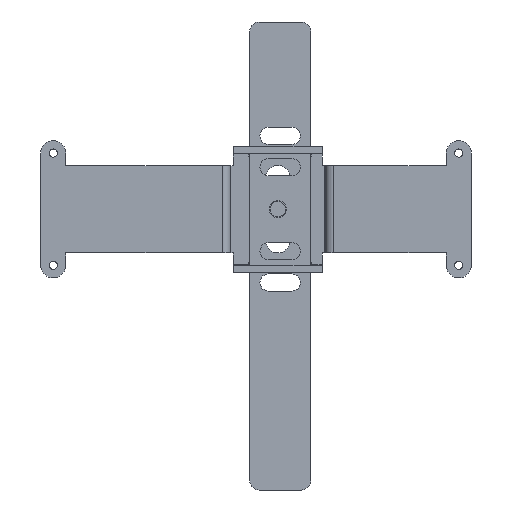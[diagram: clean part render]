
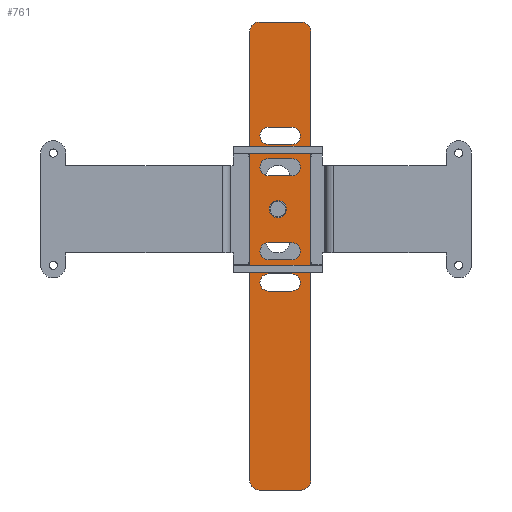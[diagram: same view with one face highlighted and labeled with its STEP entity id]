
A CAD part, front view. The second image highlights one B-rep face of the part: STEP entity #761.
In plain terms, the highlighted planar face has unit normal (0, -1, 0) as drawn and (0, 0, -1) by its records, which use the part's own axes.
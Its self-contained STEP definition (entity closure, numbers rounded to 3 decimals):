
#581=FACE_BOUND('',#1085,.T.);
#582=FACE_BOUND('',#1086,.T.);
#583=FACE_BOUND('',#1087,.T.);
#584=FACE_BOUND('',#1088,.T.);
#585=FACE_BOUND('',#1089,.T.);
#586=FACE_BOUND('',#1090,.T.);
#643=PLANE('',#3252);
#761=ADVANCED_FACE('',(#581,#582,#583,#584,#585,#586),#643,.F.);
#1085=EDGE_LOOP('',(#1809,#1810,#1811,#1812,#1813,#1814,#1815,#1816));
#1086=EDGE_LOOP('',(#1817,#1818));
#1087=EDGE_LOOP('',(#1819,#1820,#1821,#1822));
#1088=EDGE_LOOP('',(#1823,#1824,#1825,#1826));
#1089=EDGE_LOOP('',(#1827,#1828,#1829,#1830));
#1090=EDGE_LOOP('',(#1831,#1832,#1833,#1834));
#1217=CIRCLE('',#3238,3.);
#1218=CIRCLE('',#3239,3.);
#1219=CIRCLE('',#3240,3.);
#1220=CIRCLE('',#3241,3.);
#1221=CIRCLE('',#3242,2.75);
#1222=CIRCLE('',#3243,2.75);
#1223=CIRCLE('',#3244,2.75);
#1224=CIRCLE('',#3245,2.75);
#1225=CIRCLE('',#3246,2.75);
#1226=CIRCLE('',#3247,2.75);
#1227=CIRCLE('',#3248,2.75);
#1228=CIRCLE('',#3249,2.75);
#1229=CIRCLE('',#3250,2.75);
#1230=CIRCLE('',#3251,2.75);
#1809=ORIENTED_EDGE('',*,*,#2485,.F.);
#1810=ORIENTED_EDGE('',*,*,#2486,.T.);
#1811=ORIENTED_EDGE('',*,*,#2487,.F.);
#1812=ORIENTED_EDGE('',*,*,#2488,.T.);
#1813=ORIENTED_EDGE('',*,*,#2489,.F.);
#1814=ORIENTED_EDGE('',*,*,#2490,.T.);
#1815=ORIENTED_EDGE('',*,*,#2491,.F.);
#1816=ORIENTED_EDGE('',*,*,#2492,.T.);
#1817=ORIENTED_EDGE('',*,*,#2493,.F.);
#1818=ORIENTED_EDGE('',*,*,#2494,.F.);
#1819=ORIENTED_EDGE('',*,*,#2495,.F.);
#1820=ORIENTED_EDGE('',*,*,#2496,.F.);
#1821=ORIENTED_EDGE('',*,*,#2497,.F.);
#1822=ORIENTED_EDGE('',*,*,#2498,.F.);
#1823=ORIENTED_EDGE('',*,*,#2499,.F.);
#1824=ORIENTED_EDGE('',*,*,#2500,.F.);
#1825=ORIENTED_EDGE('',*,*,#2501,.F.);
#1826=ORIENTED_EDGE('',*,*,#2502,.F.);
#1827=ORIENTED_EDGE('',*,*,#2503,.F.);
#1828=ORIENTED_EDGE('',*,*,#2504,.F.);
#1829=ORIENTED_EDGE('',*,*,#2505,.F.);
#1830=ORIENTED_EDGE('',*,*,#2506,.F.);
#1831=ORIENTED_EDGE('',*,*,#2507,.F.);
#1832=ORIENTED_EDGE('',*,*,#2508,.F.);
#1833=ORIENTED_EDGE('',*,*,#2509,.F.);
#1834=ORIENTED_EDGE('',*,*,#2510,.F.);
#2151=VERTEX_POINT('',#4628);
#2152=VERTEX_POINT('',#4629);
#2153=VERTEX_POINT('',#4631);
#2154=VERTEX_POINT('',#4633);
#2155=VERTEX_POINT('',#4635);
#2156=VERTEX_POINT('',#4637);
#2157=VERTEX_POINT('',#4639);
#2158=VERTEX_POINT('',#4641);
#2159=VERTEX_POINT('',#4644);
#2160=VERTEX_POINT('',#4645);
#2161=VERTEX_POINT('',#4648);
#2162=VERTEX_POINT('',#4649);
#2163=VERTEX_POINT('',#4651);
#2164=VERTEX_POINT('',#4653);
#2165=VERTEX_POINT('',#4656);
#2166=VERTEX_POINT('',#4657);
#2167=VERTEX_POINT('',#4659);
#2168=VERTEX_POINT('',#4661);
#2169=VERTEX_POINT('',#4664);
#2170=VERTEX_POINT('',#4665);
#2171=VERTEX_POINT('',#4667);
#2172=VERTEX_POINT('',#4669);
#2173=VERTEX_POINT('',#4672);
#2174=VERTEX_POINT('',#4673);
#2175=VERTEX_POINT('',#4675);
#2176=VERTEX_POINT('',#4677);
#2485=EDGE_CURVE('',#2151,#2152,#2751,.T.);
#2486=EDGE_CURVE('',#2151,#2153,#1217,.T.);
#2487=EDGE_CURVE('',#2154,#2153,#2752,.T.);
#2488=EDGE_CURVE('',#2154,#2155,#1218,.T.);
#2489=EDGE_CURVE('',#2156,#2155,#2753,.T.);
#2490=EDGE_CURVE('',#2156,#2157,#1219,.T.);
#2491=EDGE_CURVE('',#2158,#2157,#2754,.T.);
#2492=EDGE_CURVE('',#2158,#2152,#1220,.T.);
#2493=EDGE_CURVE('',#2159,#2160,#1221,.T.);
#2494=EDGE_CURVE('',#2160,#2159,#1222,.T.);
#2495=EDGE_CURVE('',#2161,#2162,#1223,.T.);
#2496=EDGE_CURVE('',#2163,#2161,#2755,.T.);
#2497=EDGE_CURVE('',#2164,#2163,#1224,.T.);
#2498=EDGE_CURVE('',#2162,#2164,#2756,.T.);
#2499=EDGE_CURVE('',#2165,#2166,#1225,.T.);
#2500=EDGE_CURVE('',#2167,#2165,#2757,.T.);
#2501=EDGE_CURVE('',#2168,#2167,#1226,.T.);
#2502=EDGE_CURVE('',#2166,#2168,#2758,.T.);
#2503=EDGE_CURVE('',#2169,#2170,#1227,.T.);
#2504=EDGE_CURVE('',#2171,#2169,#2759,.T.);
#2505=EDGE_CURVE('',#2172,#2171,#1228,.T.);
#2506=EDGE_CURVE('',#2170,#2172,#2760,.T.);
#2507=EDGE_CURVE('',#2173,#2174,#2761,.T.);
#2508=EDGE_CURVE('',#2175,#2173,#1229,.T.);
#2509=EDGE_CURVE('',#2176,#2175,#2762,.T.);
#2510=EDGE_CURVE('',#2174,#2176,#1230,.T.);
#2751=LINE('',#4627,#2989);
#2752=LINE('',#4632,#2990);
#2753=LINE('',#4636,#2991);
#2754=LINE('',#4640,#2992);
#2755=LINE('',#4650,#2993);
#2756=LINE('',#4654,#2994);
#2757=LINE('',#4658,#2995);
#2758=LINE('',#4662,#2996);
#2759=LINE('',#4666,#2997);
#2760=LINE('',#4670,#2998);
#2761=LINE('',#4671,#2999);
#2762=LINE('',#4676,#3000);
#2989=VECTOR('',#3884,1.);
#2990=VECTOR('',#3887,1.);
#2991=VECTOR('',#3890,1.);
#2992=VECTOR('',#3893,1.);
#2993=VECTOR('',#3902,1.);
#2994=VECTOR('',#3905,1.);
#2995=VECTOR('',#3908,1.);
#2996=VECTOR('',#3911,1.);
#2997=VECTOR('',#3914,1.);
#2998=VECTOR('',#3917,1.);
#2999=VECTOR('',#3918,1.);
#3000=VECTOR('',#3921,1.);
#3238=AXIS2_PLACEMENT_3D('',#4630,#3885,#3886);
#3239=AXIS2_PLACEMENT_3D('',#4634,#3888,#3889);
#3240=AXIS2_PLACEMENT_3D('',#4638,#3891,#3892);
#3241=AXIS2_PLACEMENT_3D('',#4642,#3894,#3895);
#3242=AXIS2_PLACEMENT_3D('',#4643,#3896,#3897);
#3243=AXIS2_PLACEMENT_3D('',#4646,#3898,#3899);
#3244=AXIS2_PLACEMENT_3D('',#4647,#3900,#3901);
#3245=AXIS2_PLACEMENT_3D('',#4652,#3903,#3904);
#3246=AXIS2_PLACEMENT_3D('',#4655,#3906,#3907);
#3247=AXIS2_PLACEMENT_3D('',#4660,#3909,#3910);
#3248=AXIS2_PLACEMENT_3D('',#4663,#3912,#3913);
#3249=AXIS2_PLACEMENT_3D('',#4668,#3915,#3916);
#3250=AXIS2_PLACEMENT_3D('',#4674,#3919,#3920);
#3251=AXIS2_PLACEMENT_3D('',#4678,#3922,#3923);
#3252=AXIS2_PLACEMENT_3D('',#4679,#3924,#3925);
#3884=DIRECTION('',(1.,0.,0.));
#3885=DIRECTION('',(0.,0.,-1.));
#3886=DIRECTION('',(0.,-1.,0.));
#3887=DIRECTION('',(0.,-1.,0.));
#3888=DIRECTION('',(0.,0.,-1.));
#3889=DIRECTION('',(-1.,0.,0.));
#3890=DIRECTION('',(-1.,0.,0.));
#3891=DIRECTION('',(0.,0.,-1.));
#3892=DIRECTION('',(0.,1.,0.));
#3893=DIRECTION('',(0.,1.,0.));
#3894=DIRECTION('',(0.,0.,-1.));
#3895=DIRECTION('',(1.,0.,0.));
#3896=DIRECTION('',(0.,0.,-1.));
#3897=DIRECTION('',(-1.,0.,0.));
#3898=DIRECTION('',(0.,0.,-1.));
#3899=DIRECTION('',(1.,0.,0.));
#3900=DIRECTION('',(0.,0.,-1.));
#3901=DIRECTION('',(0.,-1.,0.));
#3902=DIRECTION('',(-1.,0.,0.));
#3903=DIRECTION('',(0.,0.,-1.));
#3904=DIRECTION('',(0.,1.,0.));
#3905=DIRECTION('',(1.,0.,0.));
#3906=DIRECTION('',(0.,0.,-1.));
#3907=DIRECTION('',(0.,-1.,0.));
#3908=DIRECTION('',(-1.,0.,0.));
#3909=DIRECTION('',(0.,0.,-1.));
#3910=DIRECTION('',(0.,1.,0.));
#3911=DIRECTION('',(1.,0.,0.));
#3912=DIRECTION('',(0.,0.,-1.));
#3913=DIRECTION('',(0.,-1.,0.));
#3914=DIRECTION('',(-1.,0.,0.));
#3915=DIRECTION('',(0.,0.,-1.));
#3916=DIRECTION('',(0.,1.,0.));
#3917=DIRECTION('',(1.,0.,0.));
#3918=DIRECTION('',(-1.,0.,0.));
#3919=DIRECTION('',(0.,0.,-1.));
#3920=DIRECTION('',(0.,1.,0.));
#3921=DIRECTION('',(1.,0.,0.));
#3922=DIRECTION('',(0.,0.,-1.));
#3923=DIRECTION('',(0.,-1.,0.));
#3924=DIRECTION('',(0.,0.,1.));
#3925=DIRECTION('',(-1.,0.,0.));
#4627=CARTESIAN_POINT('',(3.,0.,0.));
#4628=CARTESIAN_POINT('',(3.,0.,0.));
#4629=CARTESIAN_POINT('',(16.5,0.,0.));
#4630=CARTESIAN_POINT('',(3.,3.,0.));
#4631=CARTESIAN_POINT('',(0.,3.,0.));
#4632=CARTESIAN_POINT('',(0.,147.,0.));
#4633=CARTESIAN_POINT('',(0.,147.,0.));
#4634=CARTESIAN_POINT('',(3.,147.,0.));
#4635=CARTESIAN_POINT('',(3.,150.,0.));
#4636=CARTESIAN_POINT('',(15.,150.,0.));
#4637=CARTESIAN_POINT('',(16.5,150.,0.));
#4638=CARTESIAN_POINT('',(16.5,147.,0.));
#4639=CARTESIAN_POINT('',(19.5,147.,0.));
#4640=CARTESIAN_POINT('',(19.5,3.,0.));
#4641=CARTESIAN_POINT('',(19.5,3.,0.));
#4642=CARTESIAN_POINT('',(16.5,3.,0.));
#4643=CARTESIAN_POINT('',(9.,60.,0.));
#4644=CARTESIAN_POINT('',(6.25,60.,0.));
#4645=CARTESIAN_POINT('',(11.75,60.,0.));
#4646=CARTESIAN_POINT('',(9.,60.,0.));
#4647=CARTESIAN_POINT('',(6.,73.5,0.));
#4648=CARTESIAN_POINT('',(6.,70.75,0.));
#4649=CARTESIAN_POINT('',(6.,76.25,0.));
#4650=CARTESIAN_POINT('',(12.,70.75,0.));
#4651=CARTESIAN_POINT('',(13.5,70.75,0.));
#4652=CARTESIAN_POINT('',(13.5,73.5,0.));
#4653=CARTESIAN_POINT('',(13.5,76.25,0.));
#4654=CARTESIAN_POINT('',(6.,76.25,0.));
#4655=CARTESIAN_POINT('',(6.,46.5,0.));
#4656=CARTESIAN_POINT('',(6.,43.75,0.));
#4657=CARTESIAN_POINT('',(6.,49.25,0.));
#4658=CARTESIAN_POINT('',(12.,43.75,0.));
#4659=CARTESIAN_POINT('',(13.5,43.75,0.));
#4660=CARTESIAN_POINT('',(13.5,46.5,0.));
#4661=CARTESIAN_POINT('',(13.5,49.25,0.));
#4662=CARTESIAN_POINT('',(6.,49.25,0.));
#4663=CARTESIAN_POINT('',(6.,36.5,0.));
#4664=CARTESIAN_POINT('',(6.,33.75,0.));
#4665=CARTESIAN_POINT('',(6.,39.25,0.));
#4666=CARTESIAN_POINT('',(12.,33.75,0.));
#4667=CARTESIAN_POINT('',(13.5,33.75,0.));
#4668=CARTESIAN_POINT('',(13.5,36.5,0.));
#4669=CARTESIAN_POINT('',(13.5,39.25,0.));
#4670=CARTESIAN_POINT('',(6.,39.25,0.));
#4671=CARTESIAN_POINT('',(12.,80.75,0.));
#4672=CARTESIAN_POINT('',(13.5,80.75,0.));
#4673=CARTESIAN_POINT('',(6.,80.75,0.));
#4674=CARTESIAN_POINT('',(13.5,83.5,0.));
#4675=CARTESIAN_POINT('',(13.5,86.25,0.));
#4676=CARTESIAN_POINT('',(6.,86.25,0.));
#4677=CARTESIAN_POINT('',(6.,86.25,0.));
#4678=CARTESIAN_POINT('',(6.,83.5,0.));
#4679=CARTESIAN_POINT('',(0.,0.,0.));
